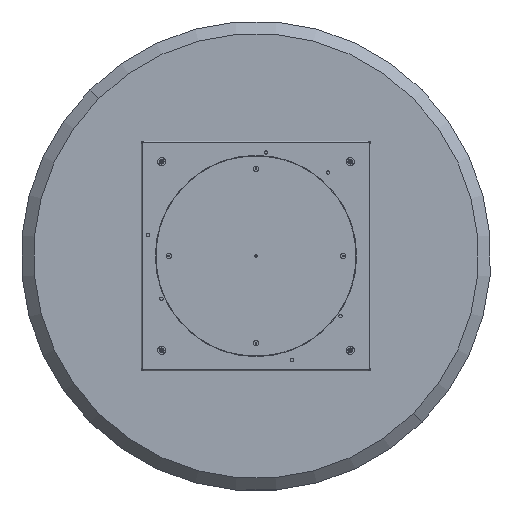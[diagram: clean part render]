
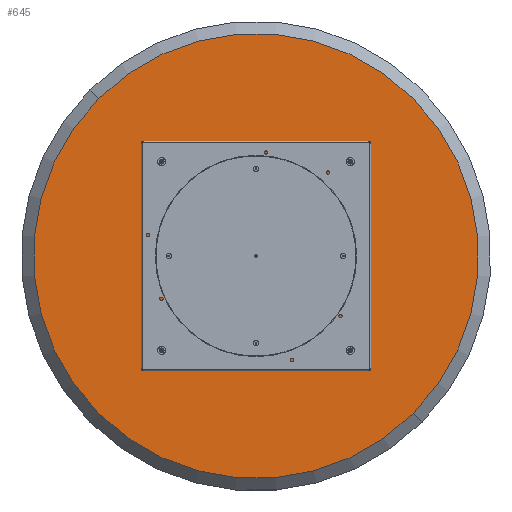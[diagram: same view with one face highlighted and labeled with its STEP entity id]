
A CAD part, front view. The second image highlights one B-rep face of the part: STEP entity #645.
In plain terms, the highlighted planar face has unit normal (0, -1, 0).
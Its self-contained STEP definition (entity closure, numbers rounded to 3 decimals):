
#128 = CIRCLE ( 'NONE', #8482, 3.4 ) ;
#319 = DIRECTION ( 'NONE',  ( 0., -1., 0. ) ) ;
#402 = DIRECTION ( 'NONE',  ( 0., 0., -1. ) ) ;
#645 = ADVANCED_FACE ( 'NONE', ( #13783, #2686, #5304, #12506, #12350 ), #6337, .T. ) ;
#667 = CARTESIAN_POINT ( 'NONE',  ( 0., 0., 397.5 ) ) ;
#775 = DIRECTION ( 'NONE',  ( 0., -1., 0. ) ) ;
#777 = EDGE_CURVE ( 'NONE', #14935, #3161, #10817, .T. ) ;
#836 = CARTESIAN_POINT ( 'NONE',  ( 0., 0., 400.9 ) ) ;
#875 = EDGE_LOOP ( 'NONE', ( #12177, #14151 ) ) ;
#1055 = CARTESIAN_POINT ( 'NONE',  ( 0., 0., 0. ) ) ;
#1196 = AXIS2_PLACEMENT_3D ( 'NONE', #6651, #1975, #2055 ) ;
#1319 = AXIS2_PLACEMENT_3D ( 'NONE', #667, #12708, #11507 ) ;
#1975 = DIRECTION ( 'NONE',  ( 0., -1., 0. ) ) ;
#1984 = CARTESIAN_POINT ( 'NONE',  ( 0., 0., -397.5 ) ) ;
#2055 = DIRECTION ( 'NONE',  ( 0., 0., -1. ) ) ;
#2056 = VERTEX_POINT ( 'NONE', #3256 ) ;
#2337 = CARTESIAN_POINT ( 'NONE',  ( 397.5, 0., -3.4 ) ) ;
#2653 = CIRCLE ( 'NONE', #7718, 3.4 ) ;
#2686 = FACE_BOUND ( 'NONE', #875, .T. ) ;
#2952 = VERTEX_POINT ( 'NONE', #6768 ) ;
#3161 = VERTEX_POINT ( 'NONE', #8417 ) ;
#3235 = EDGE_CURVE ( 'NONE', #2056, #11380, #13384, .T. ) ;
#3256 = CARTESIAN_POINT ( 'NONE',  ( -397.5, 0., 3.4 ) ) ;
#3281 = CARTESIAN_POINT ( 'NONE',  ( 0., 0., -400.9 ) ) ;
#3373 = VERTEX_POINT ( 'NONE', #8001 ) ;
#3426 = EDGE_CURVE ( 'NONE', #9952, #2952, #128, .T. ) ;
#3596 = VERTEX_POINT ( 'NONE', #8398 ) ;
#3673 = DIRECTION ( 'NONE',  ( 0., -1., 0. ) ) ;
#4100 = EDGE_CURVE ( 'NONE', #11380, #2056, #2653, .T. ) ;
#4946 = EDGE_LOOP ( 'NONE', ( #11477, #6063 ) ) ;
#5101 = AXIS2_PLACEMENT_3D ( 'NONE', #10648, #15502, #15576 ) ;
#5304 = FACE_BOUND ( 'NONE', #12093, .T. ) ;
#5580 = EDGE_CURVE ( 'NONE', #2952, #9952, #8774, .T. ) ;
#5601 = DIRECTION ( 'NONE',  ( 0., 0., -1. ) ) ;
#5704 = CARTESIAN_POINT ( 'NONE',  ( 0., 0., -663. ) ) ;
#5724 = EDGE_CURVE ( 'NONE', #3161, #14935, #12071, .T. ) ;
#5873 = AXIS2_PLACEMENT_3D ( 'NONE', #1055, #3673, #12060 ) ;
#6063 = ORIENTED_EDGE ( 'NONE', *, *, #15211, .F. ) ;
#6070 = ORIENTED_EDGE ( 'NONE', *, *, #5724, .F. ) ;
#6337 = PLANE ( 'NONE',  #7773 ) ;
#6651 = CARTESIAN_POINT ( 'NONE',  ( 397.5, 0., 0. ) ) ;
#6763 = DIRECTION ( 'NONE',  ( 0., 0., -1. ) ) ;
#6768 = CARTESIAN_POINT ( 'NONE',  ( 0., 0., -394.1 ) ) ;
#6998 = AXIS2_PLACEMENT_3D ( 'NONE', #9098, #775, #5601 ) ;
#7294 = CIRCLE ( 'NONE', #13616, 663. ) ;
#7390 = CIRCLE ( 'NONE', #5873, 663. ) ;
#7594 = DIRECTION ( 'NONE',  ( 0., -1., 0. ) ) ;
#7718 = AXIS2_PLACEMENT_3D ( 'NONE', #10413, #8192, #6763 ) ;
#7773 = AXIS2_PLACEMENT_3D ( 'NONE', #10139, #7594, #13471 ) ;
#8001 = CARTESIAN_POINT ( 'NONE',  ( 0., 0., 394.1 ) ) ;
#8096 = EDGE_CURVE ( 'NONE', #3596, #14397, #7294, .T. ) ;
#8192 = DIRECTION ( 'NONE',  ( 0., -1., 0. ) ) ;
#8398 = CARTESIAN_POINT ( 'NONE',  ( 0., 0., 663. ) ) ;
#8417 = CARTESIAN_POINT ( 'NONE',  ( 397.5, 0., 3.4 ) ) ;
#8482 = AXIS2_PLACEMENT_3D ( 'NONE', #1984, #14259, #15461 ) ;
#8574 = CARTESIAN_POINT ( 'NONE',  ( 0., 0., 0. ) ) ;
#8774 = CIRCLE ( 'NONE', #6998, 3.4 ) ;
#8824 = ORIENTED_EDGE ( 'NONE', *, *, #8096, .T. ) ;
#9098 = CARTESIAN_POINT ( 'NONE',  ( 0., 0., -397.5 ) ) ;
#9409 = VERTEX_POINT ( 'NONE', #836 ) ;
#9642 = CARTESIAN_POINT ( 'NONE',  ( 397.5, 0., 0. ) ) ;
#9804 = AXIS2_PLACEMENT_3D ( 'NONE', #9642, #15349, #14471 ) ;
#9952 = VERTEX_POINT ( 'NONE', #3281 ) ;
#10108 = EDGE_LOOP ( 'NONE', ( #13119, #6070 ) ) ;
#10139 = CARTESIAN_POINT ( 'NONE',  ( 0., 0., 0. ) ) ;
#10413 = CARTESIAN_POINT ( 'NONE',  ( -397.5, 0., 0. ) ) ;
#10648 = CARTESIAN_POINT ( 'NONE',  ( 0., 0., 397.5 ) ) ;
#10817 = CIRCLE ( 'NONE', #1196, 3.4 ) ;
#11380 = VERTEX_POINT ( 'NONE', #14951 ) ;
#11420 = CIRCLE ( 'NONE', #5101, 3.4 ) ;
#11477 = ORIENTED_EDGE ( 'NONE', *, *, #13612, .F. ) ;
#11507 = DIRECTION ( 'NONE',  ( 0., 0., -1. ) ) ;
#11693 = CIRCLE ( 'NONE', #1319, 3.4 ) ;
#12060 = DIRECTION ( 'NONE',  ( 0., 0., -1. ) ) ;
#12071 = CIRCLE ( 'NONE', #9804, 3.4 ) ;
#12093 = EDGE_LOOP ( 'NONE', ( #12553, #14378 ) ) ;
#12177 = ORIENTED_EDGE ( 'NONE', *, *, #3426, .F. ) ;
#12350 = FACE_BOUND ( 'NONE', #4946, .T. ) ;
#12438 = CARTESIAN_POINT ( 'NONE',  ( -397.5, 0., 0. ) ) ;
#12506 = FACE_BOUND ( 'NONE', #10108, .T. ) ;
#12553 = ORIENTED_EDGE ( 'NONE', *, *, #4100, .F. ) ;
#12708 = DIRECTION ( 'NONE',  ( 0., -1., 0. ) ) ;
#12761 = EDGE_LOOP ( 'NONE', ( #8824, #13803 ) ) ;
#13119 = ORIENTED_EDGE ( 'NONE', *, *, #777, .F. ) ;
#13384 = CIRCLE ( 'NONE', #14895, 3.4 ) ;
#13471 = DIRECTION ( 'NONE',  ( 0., 0., -1. ) ) ;
#13612 = EDGE_CURVE ( 'NONE', #3373, #9409, #11420, .T. ) ;
#13616 = AXIS2_PLACEMENT_3D ( 'NONE', #8574, #319, #14672 ) ;
#13709 = DIRECTION ( 'NONE',  ( 0., -1., 0. ) ) ;
#13783 = FACE_OUTER_BOUND ( 'NONE', #12761, .T. ) ;
#13803 = ORIENTED_EDGE ( 'NONE', *, *, #15407, .T. ) ;
#14151 = ORIENTED_EDGE ( 'NONE', *, *, #5580, .F. ) ;
#14259 = DIRECTION ( 'NONE',  ( 0., -1., 0. ) ) ;
#14378 = ORIENTED_EDGE ( 'NONE', *, *, #3235, .F. ) ;
#14397 = VERTEX_POINT ( 'NONE', #5704 ) ;
#14471 = DIRECTION ( 'NONE',  ( 0., 0., -1. ) ) ;
#14672 = DIRECTION ( 'NONE',  ( 0., 0., -1. ) ) ;
#14895 = AXIS2_PLACEMENT_3D ( 'NONE', #12438, #13709, #402 ) ;
#14935 = VERTEX_POINT ( 'NONE', #2337 ) ;
#14951 = CARTESIAN_POINT ( 'NONE',  ( -397.5, 0., -3.4 ) ) ;
#15211 = EDGE_CURVE ( 'NONE', #9409, #3373, #11693, .T. ) ;
#15349 = DIRECTION ( 'NONE',  ( 0., -1., 0. ) ) ;
#15407 = EDGE_CURVE ( 'NONE', #14397, #3596, #7390, .T. ) ;
#15461 = DIRECTION ( 'NONE',  ( 0., 0., -1. ) ) ;
#15502 = DIRECTION ( 'NONE',  ( 0., -1., 0. ) ) ;
#15576 = DIRECTION ( 'NONE',  ( 0., 0., -1. ) ) ;
